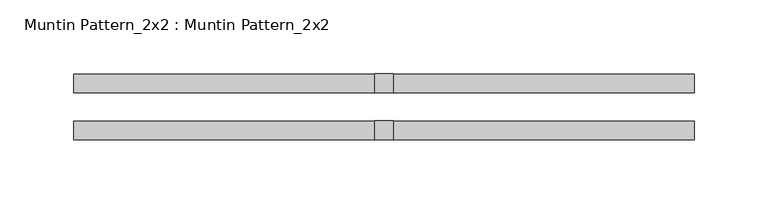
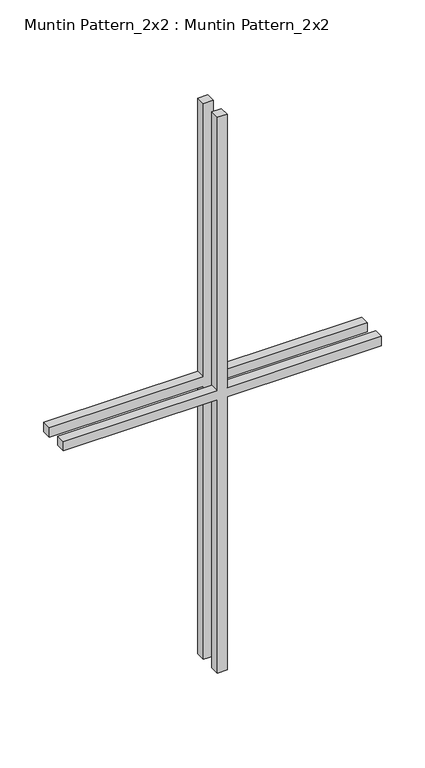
"""IFC4 building model written with IfcOpenShell, lengths in millimetres: proxy geometry, Muntin Pattern_2x2 : Muntin Pattern_2x2."""

from ifc_helpers import new_model, si_unit, frame, origin, place, context, project, spatial, polyline, outline, extrude, source, transform, mapped, element, save


def muntin_pattern_2x2_muntin_pattern_2x2_3aa5df5f(model_context):
    return source(origin(), model_context, "Body", "SweptSolid", [
        extrude(outline(polyline([(393.7, -6.35), (393.7, -209.55), (381.0, -209.55), (381.0, -6.35), (0.0, -6.35), (0.0, 6.35), (381.0, 6.35), (381.0, 209.55), (393.7, 209.55), (393.7, 6.35), (774.7, 6.35), (774.7, -6.35), (393.7, -6.35)])), frame((0.0, -22.225, 0.0), z_axis=(0.0, 1.0, 0.0), x_axis=(0.0, 0.0, 1.0)), (0.0, 0.0, 1.0), 12.7),
        extrude(outline(polyline([(393.7, -6.35), (393.7, -209.55), (381.0, -209.55), (381.0, -6.35), (0.0, -6.35), (0.0, 6.35), (381.0, 6.35), (381.0, 209.55), (393.7, 209.55), (393.7, 6.35), (774.7, 6.35), (774.7, -6.35), (393.7, -6.35)])), frame((0.0, 9.525, 0.0), z_axis=(0.0, 1.0, 0.0), x_axis=(0.0, 0.0, 1.0)), (0.0, 0.0, 1.0), 12.7),
    ])


if __name__ == "__main__":
    model = new_model("IFC4")
    model_context = context("Model", 3, world=origin())
    ifc_project = project(units=[si_unit("LENGTHUNIT", "METRE", prefix="MILLI")], contexts=[model_context])
    site = spatial("IfcSite", under=ifc_project)
    building = spatial("IfcBuilding", under=site)
    placement = place(None, origin())
    muntin_pattern_2x2_muntin_pattern_2x2_shape = muntin_pattern_2x2_muntin_pattern_2x2_3aa5df5f(model_context)
    element("IfcBuildingElementProxy", 1, Name="Muntin Pattern_2x2 : Muntin Pattern_2x2", ObjectType="Muntin Pattern_2x2 : Muntin Pattern_2x2", at=placement, inside=building, context=model_context, shape_type="MappedRepresentation", body=[
        mapped(muntin_pattern_2x2_muntin_pattern_2x2_shape, transform((0.0, 0.0, 0.0), x_axis=(1.0, 0.0, 0.0), y_axis=(0.0, 1.0, 0.0), z_axis=(0.0, 0.0, 1.0))),
    ])
    save(model, "model.ifc")
